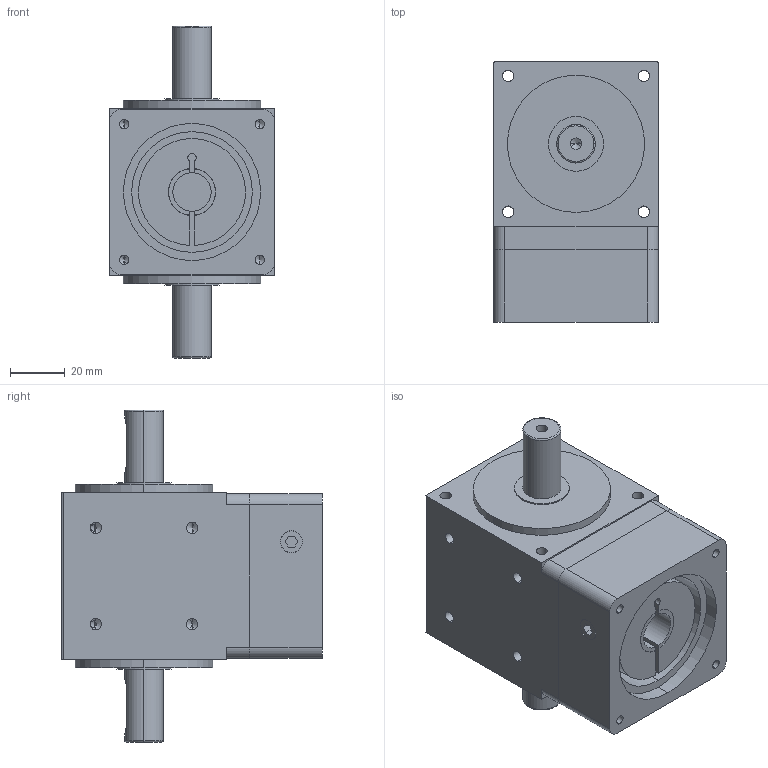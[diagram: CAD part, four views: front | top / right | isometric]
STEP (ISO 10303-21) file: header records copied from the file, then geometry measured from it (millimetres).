
FILE_DESCRIPTION (( 'STEP AP203' ), '1' );
FILE_NAME ('PLT60-S2Ä£ÐÍ£¨14-30 50-3 4-4.5-70).STEP', '2021-11-23T06:27:39', ( '' ), ( '' ), 'SwSTEP 2.0', 'SolidWorks 2016', '' );
FILE_SCHEMA (( 'CONFIG_CONTROL_DESIGN' ));
Length unit declared in the file: millimetre
Products named in the file (1): PLT60-S2模型（14-30 50-3 4-4.5-70)
Bounding box: 60 x 95 x 121 mm (x, y, z)
Volume: 338931.2 mm3; surface area: 53789.8 mm2
Topology: 2 solids, 2 shells, 210 faces, 520 edges, 318 vertices
Faces by surface type: cylinder 102, plane 64, cone 40, torus 4
Entity records: 6413 total; most frequent: CARTESIAN_POINT 1321, DIRECTION 1106, ORIENTED_EDGE 984, EDGE_CURVE 492, AXIS2_PLACEMENT_3D 429, VERTEX_POINT 318, EDGE_LOOP 260, VECTOR 248
